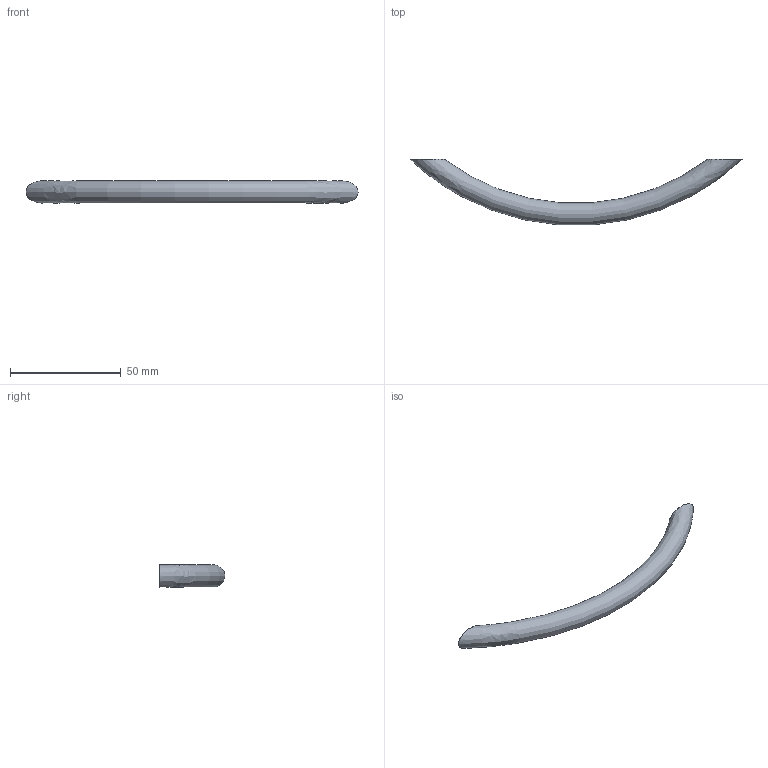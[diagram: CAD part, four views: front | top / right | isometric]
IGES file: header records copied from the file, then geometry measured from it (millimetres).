
Start section: Data from Parasolid IGES Translator 15.0.47, Copyright(c) 2006 Siemens P LM Software. All Rights Reserved.
Global section: file name: 9071037.igs; native system:  By UGS Corp.; preprocessor: XPlus GENERIC/IGES 3.0; author: Noname; organization: Noname; date: 20140827.155632; units: millimetre
Bounding box: 150 x 29.72 x 10 mm (x, y, z)
Surface area: 5008.3 mm2 (no closed solid volume)
Topology: 0 solids, 0 shells, 7 faces, 18 edges, 14 vertices
Faces by surface type: extrusion 4, revolution 3
